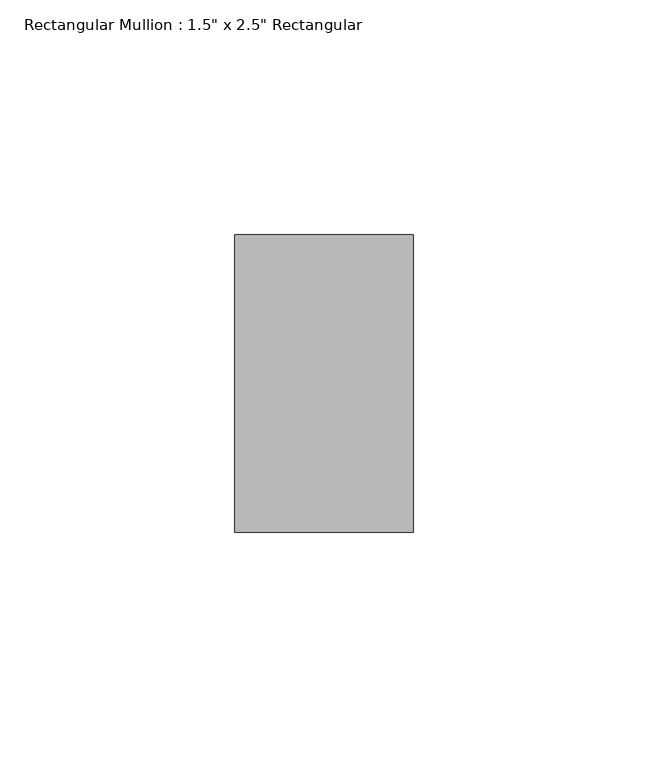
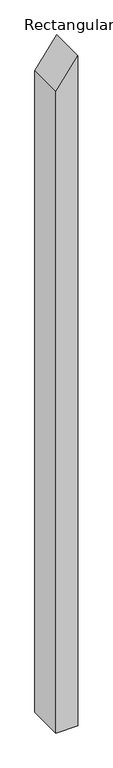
"""IFC4 building model written with IfcOpenShell, lengths in millimetres: member geometry."""

from ifc_helpers import new_model, si_unit, frame, origin, place, context, project, spatial, polyline, outline, extrude, source, transform, mapped, element, save


def member_76f0c52a(model_context):
    return source(origin(), model_context, "Body", "SweptSolid", [
        extrude(outline(polyline([(0.0, 0.0), (-52.8609263, -38.1), (-1234.9484832, -38.1), (-1234.9484832, 0.0), (0.0, 0.0)])), frame((0.0, -31.75, 0.0), z_axis=(0.0, 1.0, 0.0), x_axis=(0.0, 0.0, 1.0)), (0.0, 0.0, 1.0), 63.5),
    ])


if __name__ == "__main__":
    model = new_model("IFC4")
    model_context = context("Model", 3, world=origin())
    ifc_project = project(units=[si_unit("LENGTHUNIT", "METRE", prefix="MILLI")], contexts=[model_context])
    site = spatial("IfcSite", under=ifc_project)
    building = spatial("IfcBuilding", under=site)
    placement = place(None, origin())
    member_shape = member_76f0c52a(model_context)
    element("IfcMember", 1, ObjectType="Rectangular Mullion : 1.5\" x 2.5\" Rectangular", at=placement, inside=building, context=model_context, shape_type="MappedRepresentation", body=[
        mapped(member_shape, transform((0.0, 0.0, 0.0), x_axis=(1.0, 0.0, 0.0), y_axis=(0.0, 1.0, 0.0), z_axis=(0.0, 0.0, 1.0))),
    ])
    save(model, "model.ifc")
